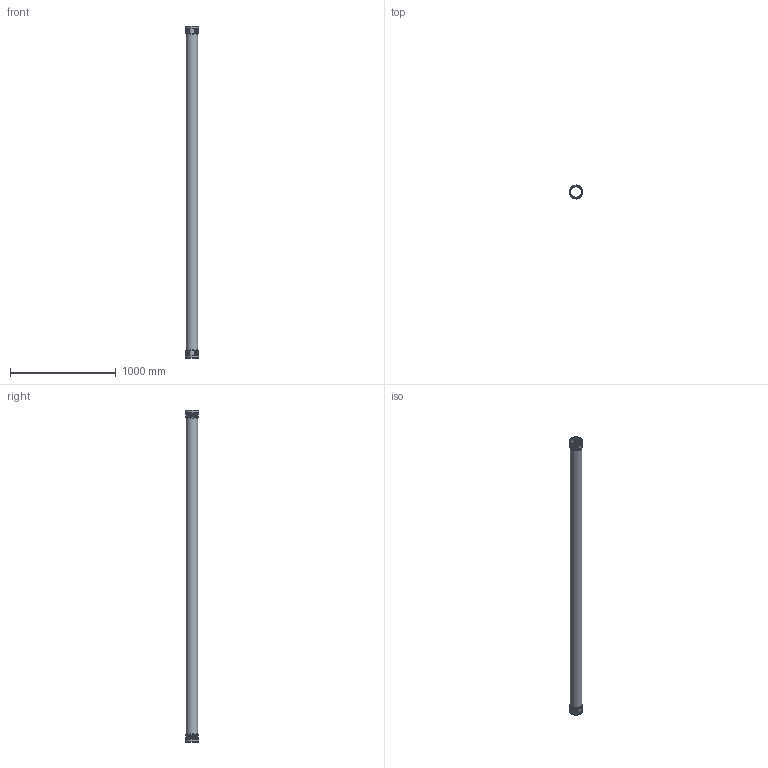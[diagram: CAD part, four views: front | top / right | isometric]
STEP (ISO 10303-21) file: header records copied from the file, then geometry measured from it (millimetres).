
FILE_DESCRIPTION(/* description */ (''),/* implementation_level */ '2;1');
FILE_NAME(/* name */ 'Z:\Geberit\Export\NewStep\Rohr2Muffen_Iassembly\stp\390514.stp',/* time_stamp */ '2014-04-03T17:51:06+02:00',/* author */ ('ML'),/* organization */ (''),/* preprocessor_version */ 'ST-DEVELOPER v15.2',/* originating_system */ 'Autodesk Inventor 2014',/* authorisation */ '');
FILE_SCHEMA (('AUTOMOTIVE_DESIGN { 1 0 10303 214 3 1 1 }'));
Length unit declared in the file: millimetre
Products named in the file (3): 861554; 861585ohne; 390514
Bounding box: 127.4 x 127.4 x 3136.2 mm (x, y, z)
Volume: 3855332.3 mm3; surface area: 2151193.4 mm2
Topology: 3 solids, 3 shells, 88 faces, 198 edges, 136 vertices
Faces by surface type: torus 48, cylinder 20, plane 18, cone 2
Full cylindrical faces by diameter (mm): 103 x3, 110.2 x3, 111.1 x4, 114.7 x2, 118.3 x4, 120.2 x2, 127.4 x2
Entity records: 1990 total; most frequent: CARTESIAN_POINT 960, DIRECTION 180, ORIENTED_EDGE 172, AXIS2_PLACEMENT_3D 90, EDGE_CURVE 86, EDGE_LOOP 76, VERTEX_POINT 70, B_SPLINE_CURVE_WITH_KNOTS 48
